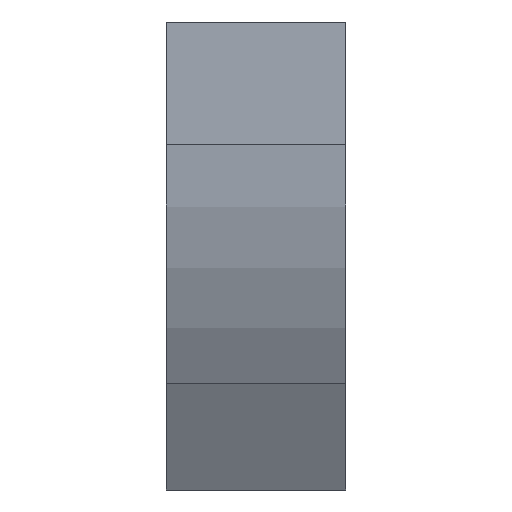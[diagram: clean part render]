
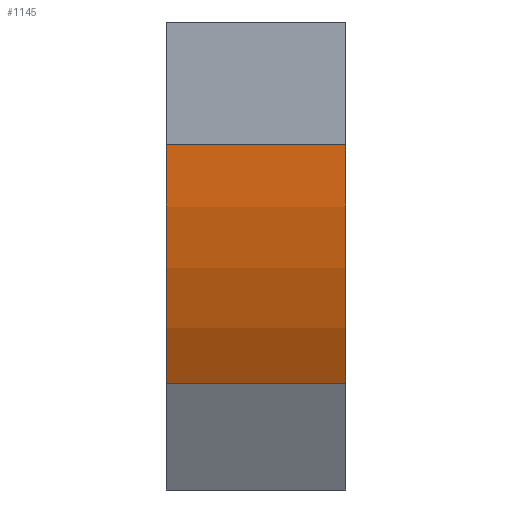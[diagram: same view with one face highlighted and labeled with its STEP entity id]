
A CAD part, left-side view. The second image highlights one B-rep face of the part: STEP entity #1145.
In plain terms, the highlighted cylindrical face has radius 300 mm (diameter 600 mm), a partial arc.
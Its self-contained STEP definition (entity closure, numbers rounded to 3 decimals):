
#9 = DIRECTION ( 'NONE',  ( -1., 0., 0. ) ) ;
#56 = EDGE_LOOP ( 'NONE', ( #1045, #1125, #637, #657 ) ) ;
#72 = CYLINDRICAL_SURFACE ( 'NONE', #1581, 300. ) ;
#93 = LINE ( 'NONE', #236, #1289 ) ;
#124 = DIRECTION ( 'NONE',  ( 0., -1., 0. ) ) ;
#236 = CARTESIAN_POINT ( 'NONE',  ( 40.192, 0., -226.795 ) ) ;
#296 = EDGE_CURVE ( 'NONE', #1191, #750, #336, .T. ) ;
#322 = CARTESIAN_POINT ( 'NONE',  ( 300., 0., -76.795 ) ) ;
#336 = CIRCLE ( 'NONE', #933, 300. ) ;
#445 = CIRCLE ( 'NONE', #683, 300. ) ;
#492 = DIRECTION ( 'NONE',  ( 0., -1., 0. ) ) ;
#577 = DIRECTION ( 'NONE',  ( 0., -1., 0. ) ) ;
#621 = CARTESIAN_POINT ( 'NONE',  ( 40.192, 112.5, -226.795 ) ) ;
#637 = ORIENTED_EDGE ( 'NONE', *, *, #1181, .T. ) ;
#657 = ORIENTED_EDGE ( 'NONE', *, *, #1664, .T. ) ;
#677 = VERTEX_POINT ( 'NONE', #1356 ) ;
#683 = AXIS2_PLACEMENT_3D ( 'NONE', #1644, #124, #862 ) ;
#750 = VERTEX_POINT ( 'NONE', #1344 ) ;
#845 = CARTESIAN_POINT ( 'NONE',  ( 300., 0., -76.795 ) ) ;
#862 = DIRECTION ( 'NONE',  ( -1., 0., 0. ) ) ;
#889 = CARTESIAN_POINT ( 'NONE',  ( 0., 0., -76.795 ) ) ;
#895 = CARTESIAN_POINT ( 'NONE',  ( 0., 0., -76.795 ) ) ;
#900 = DIRECTION ( 'NONE',  ( 0., -1., 0. ) ) ;
#929 = EDGE_CURVE ( 'NONE', #677, #1191, #1546, .T. ) ;
#933 = AXIS2_PLACEMENT_3D ( 'NONE', #845, #900, #9 ) ;
#939 = VERTEX_POINT ( 'NONE', #621 ) ;
#956 = FACE_OUTER_BOUND ( 'NONE', #56, .T. ) ;
#1045 = ORIENTED_EDGE ( 'NONE', *, *, #296, .F. ) ;
#1125 = ORIENTED_EDGE ( 'NONE', *, *, #929, .F. ) ;
#1145 = ADVANCED_FACE ( 'NONE', ( #956 ), #72, .T. ) ;
#1181 = EDGE_CURVE ( 'NONE', #677, #939, #445, .T. ) ;
#1191 = VERTEX_POINT ( 'NONE', #895 ) ;
#1289 = VECTOR ( 'NONE', #1628, 1000. ) ;
#1344 = CARTESIAN_POINT ( 'NONE',  ( 40.192, 0., -226.795 ) ) ;
#1356 = CARTESIAN_POINT ( 'NONE',  ( 0., 112.5, -76.795 ) ) ;
#1366 = DIRECTION ( 'NONE',  ( 0., 0., -1. ) ) ;
#1531 = VECTOR ( 'NONE', #492, 1000. ) ;
#1546 = LINE ( 'NONE', #889, #1531 ) ;
#1581 = AXIS2_PLACEMENT_3D ( 'NONE', #322, #577, #1366 ) ;
#1628 = DIRECTION ( 'NONE',  ( 0., -1., 0. ) ) ;
#1644 = CARTESIAN_POINT ( 'NONE',  ( 300., 112.5, -76.795 ) ) ;
#1664 = EDGE_CURVE ( 'NONE', #939, #750, #93, .T. ) ;
